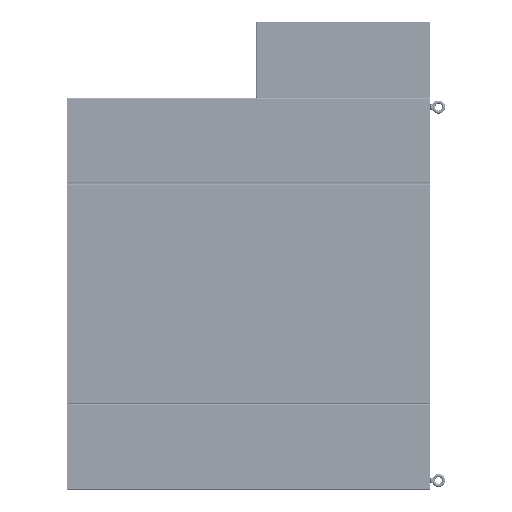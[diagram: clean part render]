
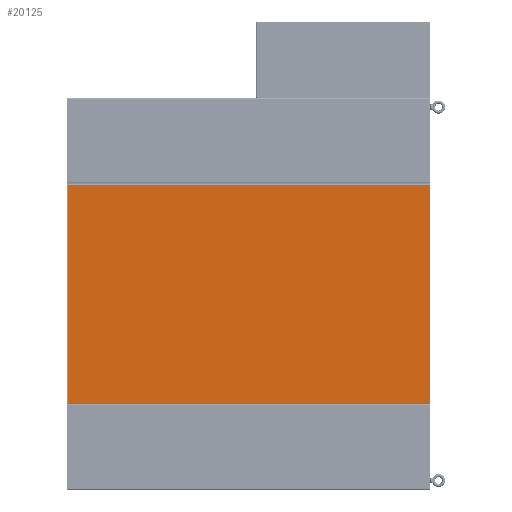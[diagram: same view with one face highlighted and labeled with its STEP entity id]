
A CAD part, left-side view. The second image highlights one B-rep face of the part: STEP entity #20125.
In plain terms, the highlighted planar face has unit normal (-1, 0, 0) as drawn and (0, 0, -1) by its records, which use the part's own axes.
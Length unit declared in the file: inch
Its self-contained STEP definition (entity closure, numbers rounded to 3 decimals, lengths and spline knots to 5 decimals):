
#19661=DIRECTION('',(0.,-1.,0.));
#19662=VECTOR('',#19661,71.75);
#19663=CARTESIAN_POINT('',(-21.625,0.,-0.125));
#19664=LINE('',#19663,#19662);
#19676=DIRECTION('',(1.,0.,0.));
#19677=VECTOR('',#19676,43.25);
#19678=CARTESIAN_POINT('',(-21.625,-71.75,-0.125));
#19679=LINE('',#19678,#19677);
#19683=DIRECTION('',(-1.,0.,0.));
#19684=VECTOR('',#19683,43.25);
#19685=CARTESIAN_POINT('',(21.625,0.,-0.125));
#19686=LINE('',#19685,#19684);
#19719=DIRECTION('',(0.,1.,0.));
#19720=VECTOR('',#19719,71.75);
#19721=CARTESIAN_POINT('',(21.625,-71.75,-0.125));
#19722=LINE('',#19721,#19720);
#19926=CARTESIAN_POINT('',(21.625,0.,-0.125));
#19927=VERTEX_POINT('',#19926);
#19928=CARTESIAN_POINT('',(21.625,-71.75,-0.125));
#19929=VERTEX_POINT('',#19928);
#19942=CARTESIAN_POINT('',(-21.625,-71.75,-0.125));
#19943=VERTEX_POINT('',#19942);
#19944=CARTESIAN_POINT('',(-21.625,0.,-0.125));
#19945=VERTEX_POINT('',#19944);
#20111=CARTESIAN_POINT('',(0.,0.,-0.125));
#20112=DIRECTION('',(0.,0.,1.));
#20113=DIRECTION('',(1.,0.,0.));
#20114=AXIS2_PLACEMENT_3D('',#20111,#20112,#20113);
#20115=PLANE('',#20114);
#20116=ORIENTED_EDGE('',*,*,#20104,.T.);
#20118=ORIENTED_EDGE('',*,*,#20117,.T.);
#20120=ORIENTED_EDGE('',*,*,#20119,.T.);
#20122=ORIENTED_EDGE('',*,*,#20121,.T.);
#20123=EDGE_LOOP('',(#20116,#20118,#20120,#20122));
#20124=FACE_OUTER_BOUND('',#20123,.F.);
#20104=EDGE_CURVE('',#19945,#19943,#19664,.T.);
#20117=EDGE_CURVE('',#19943,#19929,#19679,.T.);
#20119=EDGE_CURVE('',#19929,#19927,#19722,.T.);
#20121=EDGE_CURVE('',#19927,#19945,#19686,.T.);
#20125=ADVANCED_FACE('',(#20124),#20115,.F.);
